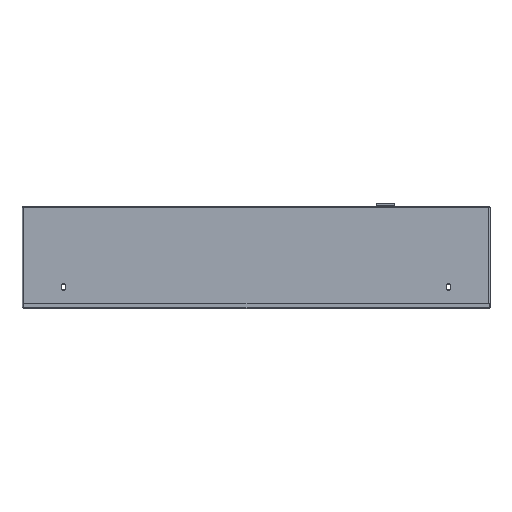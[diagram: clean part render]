
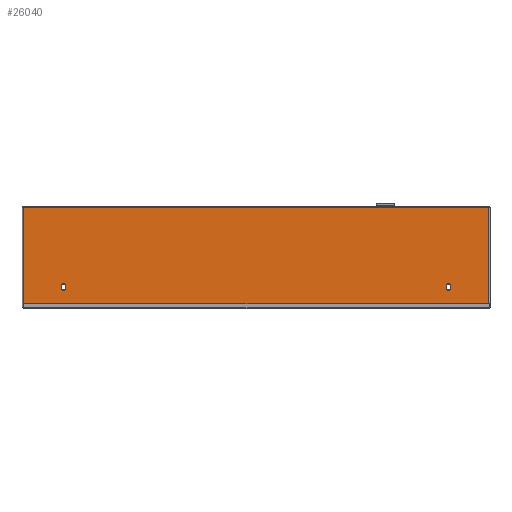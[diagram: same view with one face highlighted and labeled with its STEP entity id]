
A CAD part, left-side view. The second image highlights one B-rep face of the part: STEP entity #26040.
In plain terms, the highlighted planar face has unit normal (-1, 0, 0).
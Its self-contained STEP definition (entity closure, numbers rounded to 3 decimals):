
#19 = ORIENTED_EDGE ( 'NONE', *, *, #12611, .T. ) ;
#810 = VERTEX_POINT ( 'NONE', #58262 ) ;
#1365 = VECTOR ( 'NONE', #46211, 1000. ) ;
#1938 = DIRECTION ( 'NONE',  ( 0., 0., -1. ) ) ;
#2531 = LINE ( 'NONE', #30276, #34192 ) ;
#2771 = DIRECTION ( 'NONE',  ( 0., 0., -1. ) ) ;
#3843 = VERTEX_POINT ( 'NONE', #49885 ) ;
#4626 = DIRECTION ( 'NONE',  ( 1., 0., 0. ) ) ;
#5597 = VECTOR ( 'NONE', #36849, 1000. ) ;
#5758 = EDGE_LOOP ( 'NONE', ( #19, #17924, #13399, #25487, #33161 ) ) ;
#6245 = AXIS2_PLACEMENT_3D ( 'NONE', #29662, #44604, #1938 ) ;
#7114 = CARTESIAN_POINT ( 'NONE',  ( -200., -366., -60.5 ) ) ;
#7226 = EDGE_CURVE ( 'NONE', #53185, #40987, #51037, .T. ) ;
#7658 = PLANE ( 'NONE',  #49089 ) ;
#8170 = CARTESIAN_POINT ( 'NONE',  ( -200., 367., -53.5 ) ) ;
#8268 = DIRECTION ( 'NONE',  ( 1., 0., 0. ) ) ;
#8373 = CARTESIAN_POINT ( 'NONE',  ( -200., -373., -53.5 ) ) ;
#8896 = ORIENTED_EDGE ( 'NONE', *, *, #48697, .F. ) ;
#9663 = LINE ( 'NONE', #56743, #39286 ) ;
#9730 = EDGE_CURVE ( 'NONE', #810, #59154, #14152, .T. ) ;
#10098 = DIRECTION ( 'NONE',  ( 0., 0., 1. ) ) ;
#11599 = ORIENTED_EDGE ( 'NONE', *, *, #12757, .T. ) ;
#11916 = VERTEX_POINT ( 'NONE', #15044 ) ;
#12027 = DIRECTION ( 'NONE',  ( 0., 1., 0. ) ) ;
#12177 = LINE ( 'NONE', #31173, #52532 ) ;
#12192 = DIRECTION ( 'NONE',  ( 0., 0., 1. ) ) ;
#12574 = VERTEX_POINT ( 'NONE', #44371 ) ;
#12611 = EDGE_CURVE ( 'NONE', #12574, #810, #27833, .T. ) ;
#12757 = EDGE_CURVE ( 'NONE', #3843, #55270, #2531, .T. ) ;
#12849 = DIRECTION ( 'NONE',  ( 0., -1., 0. ) ) ;
#12955 = CARTESIAN_POINT ( 'NONE',  ( -200., 450.5, 98. ) ) ;
#13200 = EDGE_CURVE ( 'NONE', #40987, #11916, #39209, .T. ) ;
#13399 = ORIENTED_EDGE ( 'NONE', *, *, #60674, .T. ) ;
#14115 = CIRCLE ( 'NONE', #56920, 3.5 ) ;
#14152 = CIRCLE ( 'NONE', #6245, 3.5 ) ;
#15044 = CARTESIAN_POINT ( 'NONE',  ( -200., -369.5, -64. ) ) ;
#15659 = AXIS2_PLACEMENT_3D ( 'NONE', #37654, #4626, #60226 ) ;
#16614 = ORIENTED_EDGE ( 'NONE', *, *, #36757, .T. ) ;
#17692 = DIRECTION ( 'NONE',  ( 0., 0., 1. ) ) ;
#17924 = ORIENTED_EDGE ( 'NONE', *, *, #9730, .T. ) ;
#18284 = AXIS2_PLACEMENT_3D ( 'NONE', #46072, #40791, #17692 ) ;
#19006 = VERTEX_POINT ( 'NONE', #42858 ) ;
#19451 = CARTESIAN_POINT ( 'NONE',  ( -200., 367., -60.5 ) ) ;
#19569 = CARTESIAN_POINT ( 'NONE',  ( -200., -447.5, 96. ) ) ;
#20141 = VERTEX_POINT ( 'NONE', #7114 ) ;
#20580 = AXIS2_PLACEMENT_3D ( 'NONE', #27887, #46864, #29714 ) ;
#20762 = CARTESIAN_POINT ( 'NONE',  ( -200., 370.5, -64. ) ) ;
#21182 = EDGE_LOOP ( 'NONE', ( #16614, #42239, #39114, #26759, #25456 ) ) ;
#21381 = CARTESIAN_POINT ( 'NONE',  ( -200., -449.5, -97. ) ) ;
#22627 = ORIENTED_EDGE ( 'NONE', *, *, #37046, .T. ) ;
#23248 = CIRCLE ( 'NONE', #32194, 3.5 ) ;
#23822 = CARTESIAN_POINT ( 'NONE',  ( -200., -373., -60.5 ) ) ;
#24283 = CARTESIAN_POINT ( 'NONE',  ( -200., -373., -53.5 ) ) ;
#25456 = ORIENTED_EDGE ( 'NONE', *, *, #55973, .T. ) ;
#25487 = ORIENTED_EDGE ( 'NONE', *, *, #52462, .T. ) ;
#26040 = ADVANCED_FACE ( 'NONE', ( #41308, #27297, #50940 ), #7658, .F. ) ;
#26218 = EDGE_CURVE ( 'NONE', #54367, #53185, #23248, .T. ) ;
#26369 = LINE ( 'NONE', #21381, #46431 ) ;
#26674 = DIRECTION ( 'NONE',  ( 0., 0., -1. ) ) ;
#26759 = ORIENTED_EDGE ( 'NONE', *, *, #13200, .T. ) ;
#27216 = LINE ( 'NONE', #37739, #5597 ) ;
#27297 = FACE_BOUND ( 'NONE', #5758, .T. ) ;
#27833 = LINE ( 'NONE', #56170, #1365 ) ;
#27887 = CARTESIAN_POINT ( 'NONE',  ( -200., -369.5, -60.5 ) ) ;
#29662 = CARTESIAN_POINT ( 'NONE',  ( -200., 370.5, -53.5 ) ) ;
#29714 = DIRECTION ( 'NONE',  ( 0., 0., 1. ) ) ;
#30276 = CARTESIAN_POINT ( 'NONE',  ( -200., -447.5, -97. ) ) ;
#31173 = CARTESIAN_POINT ( 'NONE',  ( -200., 448.5, 96. ) ) ;
#31337 = DIRECTION ( 'NONE',  ( 1., 0., 0. ) ) ;
#32194 = AXIS2_PLACEMENT_3D ( 'NONE', #33450, #52465, #10098 ) ;
#32255 = DIRECTION ( 'NONE',  ( 0., 0., -1. ) ) ;
#32626 = VERTEX_POINT ( 'NONE', #19451 ) ;
#33161 = ORIENTED_EDGE ( 'NONE', *, *, #56274, .T. ) ;
#33450 = CARTESIAN_POINT ( 'NONE',  ( -200., -369.5, -53.5 ) ) ;
#34192 = VECTOR ( 'NONE', #12192, 1000. ) ;
#34897 = VECTOR ( 'NONE', #2771, 1000. ) ;
#36757 = EDGE_CURVE ( 'NONE', #20141, #54367, #27216, .T. ) ;
#36849 = DIRECTION ( 'NONE',  ( 0., 0., 1. ) ) ;
#37046 = EDGE_CURVE ( 'NONE', #56147, #19006, #12177, .T. ) ;
#37654 = CARTESIAN_POINT ( 'NONE',  ( -200., 370.5, -60.5 ) ) ;
#37715 = DIRECTION ( 'NONE',  ( 0., 0., -1. ) ) ;
#37739 = CARTESIAN_POINT ( 'NONE',  ( -200., -366., -53.5 ) ) ;
#39114 = ORIENTED_EDGE ( 'NONE', *, *, #7226, .T. ) ;
#39209 = CIRCLE ( 'NONE', #18284, 3.5 ) ;
#39286 = VECTOR ( 'NONE', #37715, 1000. ) ;
#39687 = CARTESIAN_POINT ( 'NONE',  ( -200., 448.5, 96. ) ) ;
#40791 = DIRECTION ( 'NONE',  ( 1., 0., 0. ) ) ;
#40987 = VERTEX_POINT ( 'NONE', #23822 ) ;
#41265 = EDGE_LOOP ( 'NONE', ( #11599, #8896, #22627, #52339 ) ) ;
#41308 = FACE_BOUND ( 'NONE', #21182, .T. ) ;
#42239 = ORIENTED_EDGE ( 'NONE', *, *, #26218, .T. ) ;
#42490 = CIRCLE ( 'NONE', #15659, 3.5 ) ;
#42858 = CARTESIAN_POINT ( 'NONE',  ( -200., 448.5, -97. ) ) ;
#44371 = CARTESIAN_POINT ( 'NONE',  ( -200., 374., -60.5 ) ) ;
#44604 = DIRECTION ( 'NONE',  ( 1., 0., 0. ) ) ;
#45361 = CARTESIAN_POINT ( 'NONE',  ( -200., 370.5, -60.5 ) ) ;
#45884 = CARTESIAN_POINT ( 'NONE',  ( -200., -449.5, 96. ) ) ;
#46072 = CARTESIAN_POINT ( 'NONE',  ( -200., -369.5, -60.5 ) ) ;
#46211 = DIRECTION ( 'NONE',  ( 0., 0., 1. ) ) ;
#46431 = VECTOR ( 'NONE', #12027, 1000. ) ;
#46864 = DIRECTION ( 'NONE',  ( 1., 0., 0. ) ) ;
#47377 = CIRCLE ( 'NONE', #20580, 3.5 ) ;
#47951 = CARTESIAN_POINT ( 'NONE',  ( -200., -366., -53.5 ) ) ;
#48694 = VECTOR ( 'NONE', #12849, 1000. ) ;
#48697 = EDGE_CURVE ( 'NONE', #56147, #55270, #55847, .T. ) ;
#49089 = AXIS2_PLACEMENT_3D ( 'NONE', #12955, #31337, #26674 ) ;
#49885 = CARTESIAN_POINT ( 'NONE',  ( -200., -447.5, -97. ) ) ;
#50177 = DIRECTION ( 'NONE',  ( 0., 0., -1. ) ) ;
#50940 = FACE_OUTER_BOUND ( 'NONE', #41265, .T. ) ;
#51037 = LINE ( 'NONE', #8373, #34897 ) ;
#52339 = ORIENTED_EDGE ( 'NONE', *, *, #55749, .F. ) ;
#52462 = EDGE_CURVE ( 'NONE', #32626, #58417, #14115, .T. ) ;
#52465 = DIRECTION ( 'NONE',  ( 1., 0., 0. ) ) ;
#52532 = VECTOR ( 'NONE', #50177, 1000. ) ;
#53185 = VERTEX_POINT ( 'NONE', #24283 ) ;
#54367 = VERTEX_POINT ( 'NONE', #47951 ) ;
#55270 = VERTEX_POINT ( 'NONE', #19569 ) ;
#55749 = EDGE_CURVE ( 'NONE', #3843, #19006, #26369, .T. ) ;
#55847 = LINE ( 'NONE', #45884, #48694 ) ;
#55973 = EDGE_CURVE ( 'NONE', #11916, #20141, #47377, .T. ) ;
#56147 = VERTEX_POINT ( 'NONE', #39687 ) ;
#56170 = CARTESIAN_POINT ( 'NONE',  ( -200., 374., -53.5 ) ) ;
#56274 = EDGE_CURVE ( 'NONE', #58417, #12574, #42490, .T. ) ;
#56743 = CARTESIAN_POINT ( 'NONE',  ( -200., 367., -53.5 ) ) ;
#56920 = AXIS2_PLACEMENT_3D ( 'NONE', #45361, #8268, #32255 ) ;
#58262 = CARTESIAN_POINT ( 'NONE',  ( -200., 374., -53.5 ) ) ;
#58417 = VERTEX_POINT ( 'NONE', #20762 ) ;
#59154 = VERTEX_POINT ( 'NONE', #8170 ) ;
#60226 = DIRECTION ( 'NONE',  ( 0., 0., -1. ) ) ;
#60674 = EDGE_CURVE ( 'NONE', #59154, #32626, #9663, .T. ) ;
